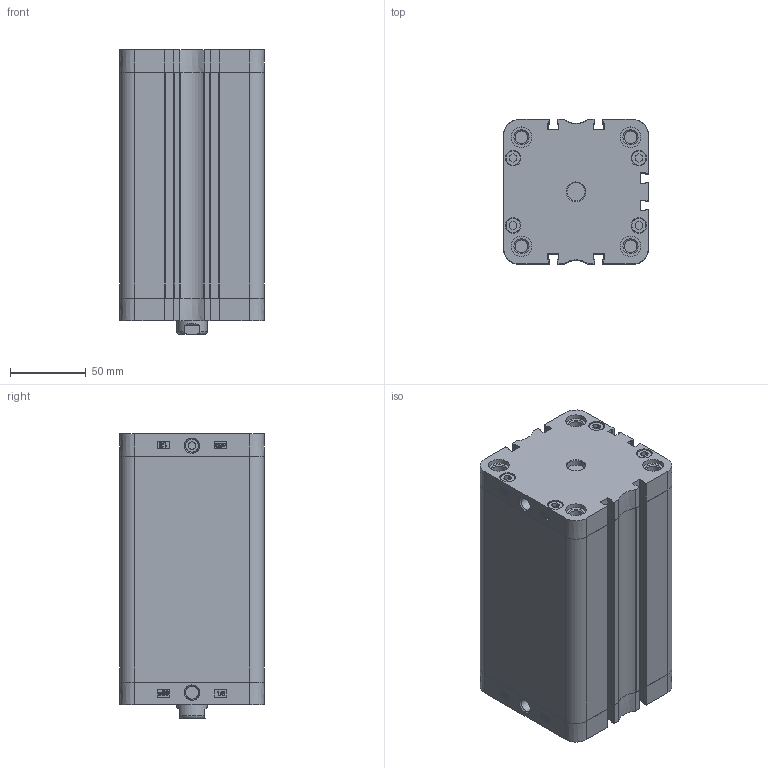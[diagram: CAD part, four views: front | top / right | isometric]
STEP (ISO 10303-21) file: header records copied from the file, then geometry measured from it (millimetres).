
FILE_DESCRIPTION(/* description */ ('Unknown'),/* implementation_level */ '2;1');
FILE_NAME(/* name */ 'ZIN 80_125',/* time_stamp */ '2024-11-12T08:19:51+01:00',/* author */ ('Unknown'),/* organization */ ('HAFNER Pneumatika Kft.'),/* preprocessor_version */ 'ST-DEVELOPER v18.102',/* originating_system */ 'Solid Edge',/* authorisation */ 'Unknown');
FILE_SCHEMA (('AUTOMOTIVE_DESIGN {1 0 10303 214 3 1 1}'));
Length unit declared in the file: millimetre
Products named in the file (5): ZIN 80_125; Kit_1; Kit_2; Kolbenstange; Profilrohr
Assembly tree (4 placements, depth 2):
  ZIN 80_125
    Kit_1
    Kit_2
    Kolbenstange
    Profilrohr
Bounding box: 95.5 x 95.5 x 188 mm (x, y, z)
Volume: 962060.3 mm3; surface area: 194338.1 mm2
Topology: 4 solids, 4 shells, 731 faces, 1944 edges, 1291 vertices
Faces by surface type: plane 341, cylinder 208, bspline 122, cone 41, torus 19
Full cylindrical faces by diameter (mm): 5 x1, 8.376 x8, 8.566 x2, 9.8 x8, 10.106 x2, 10.3 x8, 12 x1, 13.5 x8, 20 x1, 20.6 x1, 21.9 x1, 23 x1, 25 x1, 80 x2
Entity records: 27386 total; most frequent: CARTESIAN_POINT 5712, ORIENTED_EDGE 3634, DIRECTION 3264, EDGE_CURVE 1817, VERTEX_POINT 1260, AXIS2_PLACEMENT_3D 1098, LINE 1068, VECTOR 1068
